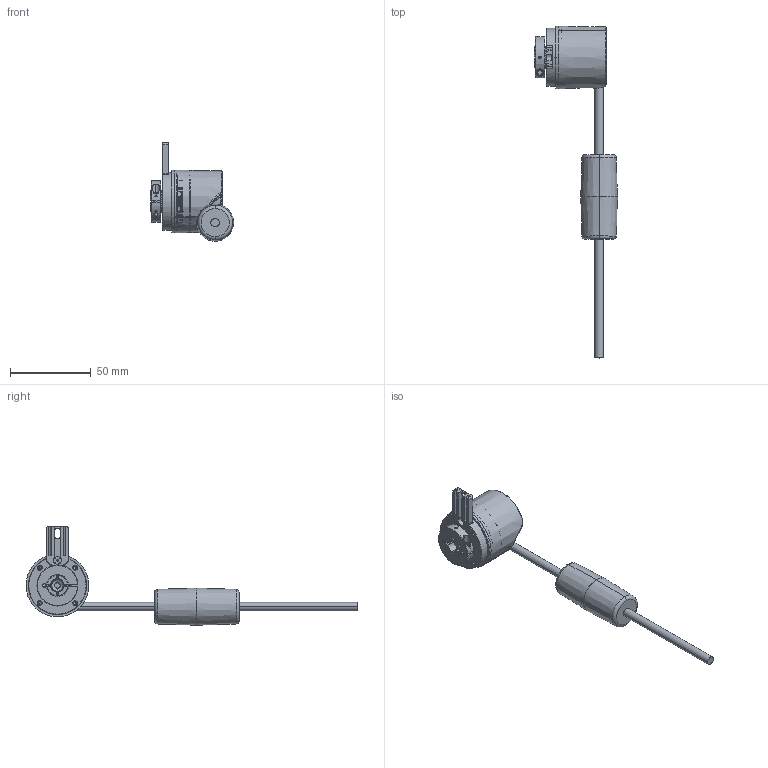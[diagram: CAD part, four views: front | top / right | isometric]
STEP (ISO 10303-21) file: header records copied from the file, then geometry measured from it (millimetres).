
FILE_DESCRIPTION (( 'STEP AP214' ), '1' );
FILE_NAME ('F3688.3723.XXXX.STEP', '2009-12-18T10:41:16', ( 'admin' ), ( 'Fritz Kübler GmbH' ), 'SwSTEP 2.0', 'SolidWorks 2009', '' );
FILE_SCHEMA (( 'AUTOMOTIVE_DESIGN' ));
Length unit declared in the file: millimetre
Products named in the file (1): F3688.3723.XXXX
Bounding box: 51.7 x 206 x 61.05 mm (x, y, z)
Volume: 29150.4 mm3; surface area: 32504.3 mm2
Topology: 9 solids, 10 shells, 920 faces, 2214 edges, 1326 vertices
Faces by surface type: cylinder 245, plane 198, bspline 190, cone 151, torus 128, sphere 8
Entity records: 41434 total; most frequent: CARTESIAN_POINT 11199, ORIENTED_EDGE 4388, DIRECTION 3982, EDGE_CURVE 2194, AXIS2_PLACEMENT_3D 1655, VERTEX_POINT 1326, EDGE_LOOP 974, UNCERTAINTY_MEASURE_WITH_UNIT 931
